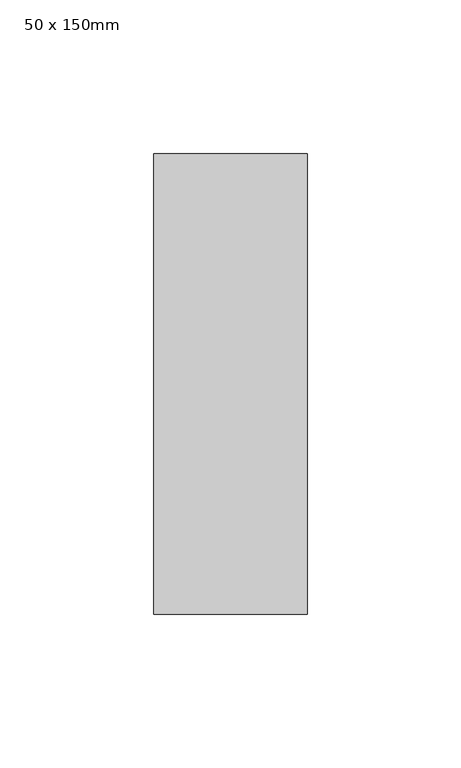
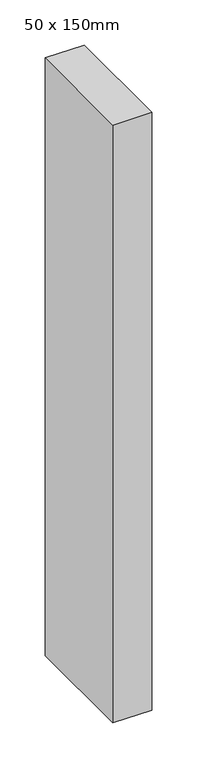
"""IFC4 building model written with IfcOpenShell, lengths in millimetres: member geometry, Прямоугольный импост : 50 x 150mm."""

from ifc_helpers import new_model, si_unit, frame, origin, place, context, project, spatial, polyline, outline, extrude, source, transform, mapped, element, save


def member_50_x_150mm_3fa0e97e(model_context):
    return source(origin(), model_context, "Body", "SweptSolid", [
        extrude(outline(polyline([(0.0, 75.0), (0.0, -75.0), (-50.0, -75.0), (-50.0, 75.0), (0.0, 75.0)])), frame((0.0, 0.0, -810.0), z_axis=(0.0, 0.0, 1.0), x_axis=(1.0, 0.0, 0.0)), (0.0, 0.0, 1.0), 810.0),
    ])


if __name__ == "__main__":
    model = new_model("IFC4")
    model_context = context("Model", 3, world=origin())
    ifc_project = project(units=[si_unit("LENGTHUNIT", "METRE", prefix="MILLI")], contexts=[model_context])
    site = spatial("IfcSite", under=ifc_project)
    building = spatial("IfcBuilding", under=site)
    placement = place(None, origin())
    member_50_x_150mm_shape = member_50_x_150mm_3fa0e97e(model_context)
    element("IfcMember", 1, ObjectType="Прямоугольный импост : 50 x 150mm", at=placement, inside=building, context=model_context, shape_type="MappedRepresentation", body=[
        mapped(member_50_x_150mm_shape, transform((0.0, 0.0, 0.0), x_axis=(1.0, 0.0, 0.0), y_axis=(0.0, 1.0, 0.0), z_axis=(0.0, 0.0, 1.0))),
    ])
    save(model, "model.ifc")
